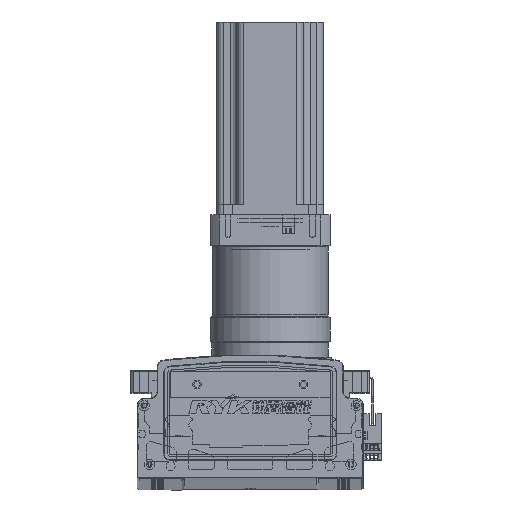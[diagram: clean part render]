
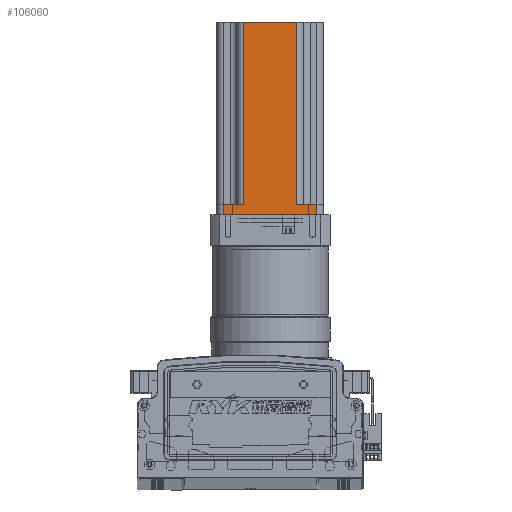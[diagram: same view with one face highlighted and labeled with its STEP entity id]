
A CAD part, top view. The second image highlights one B-rep face of the part: STEP entity #106060.
In plain terms, the highlighted planar face has unit normal (0, 0, 1) as drawn and (0, -1, 0) by its records, which use the part's own axes.
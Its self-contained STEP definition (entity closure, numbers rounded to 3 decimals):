
#11739 = VERTEX_POINT ( 'NONE', #67089 ) ;
#13362 = LINE ( 'NONE', #47966, #13374 ) ;
#13374 = VECTOR ( 'NONE', #48033, 1000. ) ;
#13415 = VECTOR ( 'NONE', #48014, 1000. ) ;
#13452 = LINE ( 'NONE', #48029, #13415 ) ;
#13483 = VECTOR ( 'NONE', #48090, 1000. ) ;
#13489 = LINE ( 'NONE', #48084, #13483 ) ;
#13556 = VECTOR ( 'NONE', #48320, 1000. ) ;
#13622 = LINE ( 'NONE', #48300, #13657 ) ;
#13632 = LINE ( 'NONE', #48126, #13660 ) ;
#13638 = LINE ( 'NONE', #48289, #13556 ) ;
#13657 = VECTOR ( 'NONE', #48276, 1000. ) ;
#13660 = VECTOR ( 'NONE', #48078, 1000. ) ;
#13734 = LINE ( 'NONE', #48576, #13758 ) ;
#13758 = VECTOR ( 'NONE', #48588, 1000. ) ;
#13861 = LINE ( 'NONE', #48638, #13887 ) ;
#13887 = VECTOR ( 'NONE', #48650, 1000. ) ;
#23383 = FACE_OUTER_BOUND ( 'NONE', #27676, .T. ) ;
#26008 = EDGE_CURVE ( 'NONE', #91416, #11739, #13452, .T. ) ;
#26012 = EDGE_CURVE ( 'NONE', #91355, #91416, #13362, .T. ) ;
#26023 = EDGE_CURVE ( 'NONE', #91355, #91390, #13489, .T. ) ;
#26033 = EDGE_CURVE ( 'NONE', #11739, #91507, #13632, .T. ) ;
#26047 = EDGE_CURVE ( 'NONE', #91411, #91536, #13622, .T. ) ;
#26056 = EDGE_CURVE ( 'NONE', #91388, #91390, #13638, .T. ) ;
#26098 = EDGE_CURVE ( 'NONE', #91411, #91507, #13734, .T. ) ;
#26125 = EDGE_CURVE ( 'NONE', #91388, #91536, #13861, .T. ) ;
#27676 = EDGE_LOOP ( 'NONE', ( #42002, #42139, #42004, #42125, #42145, #42175, #42167, #42329 ) ) ;
#37800 = CARTESIAN_POINT ( 'NONE',  ( -67.587, -40.37, 145. ) ) ;
#37809 = CARTESIAN_POINT ( 'NONE',  ( -67.587, -40.37, 8. ) ) ;
#37938 = CARTESIAN_POINT ( 'NONE',  ( -82.587, -40.37, 8. ) ) ;
#37977 = CARTESIAN_POINT ( 'NONE',  ( -27.587, -40.37, 8. ) ) ;
#38004 = CARTESIAN_POINT ( 'NONE',  ( -82.587, -40.37, 0. ) ) ;
#38107 = CARTESIAN_POINT ( 'NONE',  ( -27.587, -40.37, 145. ) ) ;
#38146 = CARTESIAN_POINT ( 'NONE',  ( -12.587, -40.37, 8. ) ) ;
#42002 = ORIENTED_EDGE ( 'NONE', *, *, #26023, .F. ) ;
#42004 = ORIENTED_EDGE ( 'NONE', *, *, #26008, .T. ) ;
#42125 = ORIENTED_EDGE ( 'NONE', *, *, #26033, .T. ) ;
#42139 = ORIENTED_EDGE ( 'NONE', *, *, #26012, .T. ) ;
#42145 = ORIENTED_EDGE ( 'NONE', *, *, #26098, .F. ) ;
#42167 = ORIENTED_EDGE ( 'NONE', *, *, #26125, .F. ) ;
#42175 = ORIENTED_EDGE ( 'NONE', *, *, #26047, .T. ) ;
#42329 = ORIENTED_EDGE ( 'NONE', *, *, #26056, .T. ) ;
#47966 = CARTESIAN_POINT ( 'NONE',  ( -82.587, -40.37, 145. ) ) ;
#48014 = DIRECTION ( 'NONE',  ( 1., 0., 0. ) ) ;
#48029 = CARTESIAN_POINT ( 'NONE',  ( -87.587, -40.37, 0. ) ) ;
#48033 = DIRECTION ( 'NONE',  ( 0., 0., -1. ) ) ;
#48078 = DIRECTION ( 'NONE',  ( 0., 0., 1. ) ) ;
#48084 = CARTESIAN_POINT ( 'NONE',  ( -87.587, -40.37, 8. ) ) ;
#48090 = DIRECTION ( 'NONE',  ( 1., 0., 0. ) ) ;
#48126 = CARTESIAN_POINT ( 'NONE',  ( -12.587, -40.37, 145. ) ) ;
#48276 = DIRECTION ( 'NONE',  ( 0., 0., 1. ) ) ;
#48289 = CARTESIAN_POINT ( 'NONE',  ( -67.587, -40.37, 145. ) ) ;
#48300 = CARTESIAN_POINT ( 'NONE',  ( -27.587, -40.37, 145. ) ) ;
#48320 = DIRECTION ( 'NONE',  ( 0., 0., -1. ) ) ;
#48576 = CARTESIAN_POINT ( 'NONE',  ( -7.587, -40.37, 8. ) ) ;
#48588 = DIRECTION ( 'NONE',  ( 1., 0., 0. ) ) ;
#48638 = CARTESIAN_POINT ( 'NONE',  ( -87.587, -40.37, 145. ) ) ;
#48650 = DIRECTION ( 'NONE',  ( 1., 0., 0. ) ) ;
#67089 = CARTESIAN_POINT ( 'NONE',  ( -12.587, -40.37, 0. ) ) ;
#91355 = VERTEX_POINT ( 'NONE', #37938 ) ;
#91388 = VERTEX_POINT ( 'NONE', #37800 ) ;
#91390 = VERTEX_POINT ( 'NONE', #37809 ) ;
#91411 = VERTEX_POINT ( 'NONE', #37977 ) ;
#91416 = VERTEX_POINT ( 'NONE', #38004 ) ;
#91507 = VERTEX_POINT ( 'NONE', #38146 ) ;
#91536 = VERTEX_POINT ( 'NONE', #38107 ) ;
#106060 = ADVANCED_FACE ( 'NONE', ( #23383 ), #129131, .F. ) ;
#129131 = PLANE ( 'NONE',  #131921 ) ;
#129279 = DIRECTION ( 'NONE',  ( 0., 1., 0. ) ) ;
#129284 = DIRECTION ( 'NONE',  ( -1., 0., 0. ) ) ;
#129308 = CARTESIAN_POINT ( 'NONE',  ( -87.587, -40.37, 145. ) ) ;
#131921 = AXIS2_PLACEMENT_3D ( 'NONE', #129308, #129279, #129284 ) ;
